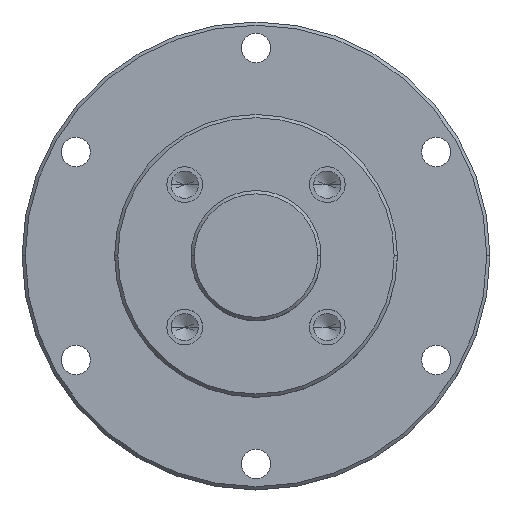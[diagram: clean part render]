
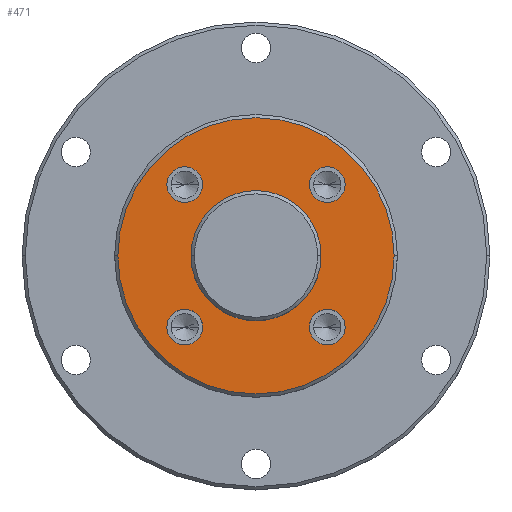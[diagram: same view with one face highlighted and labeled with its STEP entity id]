
A CAD part, top view. The second image highlights one B-rep face of the part: STEP entity #471.
In plain terms, the highlighted planar face has unit normal (0, 0, 1).
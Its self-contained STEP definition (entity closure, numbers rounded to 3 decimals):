
#46 = AXIS2_PLACEMENT_3D ( 'NONE', #4160, #1697, #4526 ) ;
#117 = CARTESIAN_POINT ( 'NONE',  ( -10.96, -10.96, 0. ) ) ;
#132 = AXIS2_PLACEMENT_3D ( 'NONE', #4412, #1991, #4819 ) ;
#208 = CARTESIAN_POINT ( 'NONE',  ( -10.96, -10.96, 0. ) ) ;
#220 = DIRECTION ( 'NONE',  ( 1., 0., 0. ) ) ;
#229 = DIRECTION ( 'NONE',  ( 1., 0., 0. ) ) ;
#358 = CIRCLE ( 'NONE', #2219, 2.75 ) ;
#381 = DIRECTION ( 'NONE',  ( 0., 0., 1. ) ) ;
#435 = CARTESIAN_POINT ( 'NONE',  ( 10., 0., 0. ) ) ;
#470 = ORIENTED_EDGE ( 'NONE', *, *, #5155, .T. ) ;
#471 = ADVANCED_FACE ( 'NONE', ( #5117, #4951, #4954, #4836, #4831, #4761 ), #4804, .F. ) ;
#542 = DIRECTION ( 'NONE',  ( -1., 0., 0. ) ) ;
#609 = VERTEX_POINT ( 'NONE', #1259 ) ;
#614 = DIRECTION ( 'NONE',  ( -1., 0., 0. ) ) ;
#618 = VERTEX_POINT ( 'NONE', #4518 ) ;
#628 = EDGE_LOOP ( 'NONE', ( #5009, #4620 ) ) ;
#711 = ORIENTED_EDGE ( 'NONE', *, *, #1067, .F. ) ;
#761 = EDGE_CURVE ( 'NONE', #609, #618, #4282, .T. ) ;
#896 = VERTEX_POINT ( 'NONE', #3462 ) ;
#906 = VERTEX_POINT ( 'NONE', #4793 ) ;
#1015 = AXIS2_PLACEMENT_3D ( 'NONE', #2913, #381, #3322 ) ;
#1029 = CIRCLE ( 'NONE', #4400, 2.75 ) ;
#1067 = EDGE_CURVE ( 'NONE', #896, #906, #1267, .T. ) ;
#1074 = DIRECTION ( 'NONE',  ( 0., 0., 1. ) ) ;
#1080 = EDGE_LOOP ( 'NONE', ( #3213, #1406 ) ) ;
#1089 = DIRECTION ( 'NONE',  ( 0., 0., 1. ) ) ;
#1100 = CIRCLE ( 'NONE', #3053, 21.25 ) ;
#1111 = CIRCLE ( 'NONE', #4452, 21.25 ) ;
#1204 = CARTESIAN_POINT ( 'NONE',  ( -10.96, 10.96, 0. ) ) ;
#1217 = EDGE_CURVE ( 'NONE', #906, #896, #358, .T. ) ;
#1259 = CARTESIAN_POINT ( 'NONE',  ( -13.71, 10.96, 0. ) ) ;
#1264 = VERTEX_POINT ( 'NONE', #4504 ) ;
#1267 = CIRCLE ( 'NONE', #2043, 2.75 ) ;
#1273 = VERTEX_POINT ( 'NONE', #3548 ) ;
#1286 = VERTEX_POINT ( 'NONE', #435 ) ;
#1389 = ORIENTED_EDGE ( 'NONE', *, *, #3095, .T. ) ;
#1406 = ORIENTED_EDGE ( 'NONE', *, *, #761, .F. ) ;
#1537 = EDGE_CURVE ( 'NONE', #618, #609, #3072, .T. ) ;
#1572 = EDGE_CURVE ( 'NONE', #1264, #1273, #2820, .T. ) ;
#1586 = DIRECTION ( 'NONE',  ( -1., 0., 0. ) ) ;
#1611 = DIRECTION ( 'NONE',  ( 0., 0., 1. ) ) ;
#1645 = DIRECTION ( 'NONE',  ( 1., 0., 0. ) ) ;
#1661 = DIRECTION ( 'NONE',  ( 0., 0., 1. ) ) ;
#1662 = AXIS2_PLACEMENT_3D ( 'NONE', #1204, #4106, #1645 ) ;
#1665 = VERTEX_POINT ( 'NONE', #3638 ) ;
#1674 = VERTEX_POINT ( 'NONE', #2850 ) ;
#1697 = DIRECTION ( 'NONE',  ( 0., 0., 1. ) ) ;
#1802 = EDGE_CURVE ( 'NONE', #1665, #1674, #1029, .T. ) ;
#1991 = DIRECTION ( 'NONE',  ( 0., 0., 1. ) ) ;
#2043 = AXIS2_PLACEMENT_3D ( 'NONE', #117, #3048, #542 ) ;
#2117 = EDGE_CURVE ( 'NONE', #1674, #1665, #2420, .T. ) ;
#2201 = AXIS2_PLACEMENT_3D ( 'NONE', #5093, #2751, #229 ) ;
#2219 = AXIS2_PLACEMENT_3D ( 'NONE', #208, #3136, #614 ) ;
#2225 = EDGE_LOOP ( 'NONE', ( #470, #1389 ) ) ;
#2300 = CARTESIAN_POINT ( 'NONE',  ( -21.25, 0., 0. ) ) ;
#2346 = ORIENTED_EDGE ( 'NONE', *, *, #3312, .F. ) ;
#2420 = CIRCLE ( 'NONE', #1015, 2.75 ) ;
#2518 = AXIS2_PLACEMENT_3D ( 'NONE', #3253, #4048, #1586 ) ;
#2519 = AXIS2_PLACEMENT_3D ( 'NONE', #5084, #2737, #220 ) ;
#2736 = ORIENTED_EDGE ( 'NONE', *, *, #1217, .F. ) ;
#2737 = DIRECTION ( 'NONE',  ( 0., 0., 1. ) ) ;
#2751 = DIRECTION ( 'NONE',  ( 0., 0., 1. ) ) ;
#2806 = ORIENTED_EDGE ( 'NONE', *, *, #2117, .F. ) ;
#2820 = CIRCLE ( 'NONE', #4873, 2.75 ) ;
#2850 = CARTESIAN_POINT ( 'NONE',  ( 13.71, -10.96, 0. ) ) ;
#2856 = EDGE_CURVE ( 'NONE', #3133, #1286, #3966, .T. ) ;
#2913 = CARTESIAN_POINT ( 'NONE',  ( 10.96, -10.96, 0. ) ) ;
#2915 = CARTESIAN_POINT ( 'NONE',  ( 21.25, 0., 0. ) ) ;
#3048 = DIRECTION ( 'NONE',  ( 0., 0., 1. ) ) ;
#3053 = AXIS2_PLACEMENT_3D ( 'NONE', #3588, #1074, #3976 ) ;
#3072 = CIRCLE ( 'NONE', #1662, 2.75 ) ;
#3095 = EDGE_CURVE ( 'NONE', #4603, #3191, #1111, .T. ) ;
#3133 = VERTEX_POINT ( 'NONE', #3324 ) ;
#3136 = DIRECTION ( 'NONE',  ( 0., 0., 1. ) ) ;
#3191 = VERTEX_POINT ( 'NONE', #2300 ) ;
#3213 = ORIENTED_EDGE ( 'NONE', *, *, #1537, .F. ) ;
#3219 = CIRCLE ( 'NONE', #2201, 10. ) ;
#3253 = CARTESIAN_POINT ( 'NONE',  ( 0., 21.75, 0. ) ) ;
#3258 = ORIENTED_EDGE ( 'NONE', *, *, #1802, .F. ) ;
#3312 = EDGE_CURVE ( 'NONE', #1273, #1264, #3429, .T. ) ;
#3322 = DIRECTION ( 'NONE',  ( 1., 0., 0. ) ) ;
#3324 = CARTESIAN_POINT ( 'NONE',  ( -10., 0., 0. ) ) ;
#3429 = CIRCLE ( 'NONE', #132, 2.75 ) ;
#3462 = CARTESIAN_POINT ( 'NONE',  ( -13.71, -10.96, 0. ) ) ;
#3548 = CARTESIAN_POINT ( 'NONE',  ( 13.71, 10.96, 0. ) ) ;
#3588 = CARTESIAN_POINT ( 'NONE',  ( 0., 0., 0. ) ) ;
#3603 = CARTESIAN_POINT ( 'NONE',  ( 10.96, -10.96, 0. ) ) ;
#3638 = CARTESIAN_POINT ( 'NONE',  ( 8.21, -10.96, 0. ) ) ;
#3936 = ORIENTED_EDGE ( 'NONE', *, *, #1572, .F. ) ;
#3966 = CIRCLE ( 'NONE', #2519, 10. ) ;
#3976 = DIRECTION ( 'NONE',  ( -1., 0., 0. ) ) ;
#3987 = DIRECTION ( 'NONE',  ( 1., 0., 0. ) ) ;
#4048 = DIRECTION ( 'NONE',  ( 0., 0., -1. ) ) ;
#4084 = CARTESIAN_POINT ( 'NONE',  ( 0., 0., 0. ) ) ;
#4106 = DIRECTION ( 'NONE',  ( 0., 0., 1. ) ) ;
#4120 = CARTESIAN_POINT ( 'NONE',  ( 10.96, 10.96, 0. ) ) ;
#4160 = CARTESIAN_POINT ( 'NONE',  ( -10.96, 10.96, 0. ) ) ;
#4282 = CIRCLE ( 'NONE', #46, 2.75 ) ;
#4400 = AXIS2_PLACEMENT_3D ( 'NONE', #3603, #1089, #3987 ) ;
#4412 = CARTESIAN_POINT ( 'NONE',  ( 10.96, 10.96, 0. ) ) ;
#4450 = DIRECTION ( 'NONE',  ( -1., 0., 0. ) ) ;
#4452 = AXIS2_PLACEMENT_3D ( 'NONE', #4084, #1611, #4450 ) ;
#4493 = DIRECTION ( 'NONE',  ( -1., 0., 0. ) ) ;
#4504 = CARTESIAN_POINT ( 'NONE',  ( 8.21, 10.96, 0. ) ) ;
#4518 = CARTESIAN_POINT ( 'NONE',  ( -8.21, 10.96, 0. ) ) ;
#4526 = DIRECTION ( 'NONE',  ( 1., 0., 0. ) ) ;
#4581 = EDGE_LOOP ( 'NONE', ( #2736, #711 ) ) ;
#4603 = VERTEX_POINT ( 'NONE', #2915 ) ;
#4620 = ORIENTED_EDGE ( 'NONE', *, *, #2856, .F. ) ;
#4704 = EDGE_LOOP ( 'NONE', ( #2346, #3936 ) ) ;
#4761 = FACE_BOUND ( 'NONE', #5140, .T. ) ;
#4793 = CARTESIAN_POINT ( 'NONE',  ( -8.21, -10.96, 0. ) ) ;
#4804 = PLANE ( 'NONE',  #2518 ) ;
#4819 = DIRECTION ( 'NONE',  ( -1., 0., 0. ) ) ;
#4831 = FACE_BOUND ( 'NONE', #4704, .T. ) ;
#4836 = FACE_BOUND ( 'NONE', #4581, .T. ) ;
#4873 = AXIS2_PLACEMENT_3D ( 'NONE', #4120, #1661, #4493 ) ;
#4951 = FACE_OUTER_BOUND ( 'NONE', #2225, .T. ) ;
#4954 = FACE_BOUND ( 'NONE', #1080, .T. ) ;
#5009 = ORIENTED_EDGE ( 'NONE', *, *, #5108, .F. ) ;
#5084 = CARTESIAN_POINT ( 'NONE',  ( 0., 0., 0. ) ) ;
#5093 = CARTESIAN_POINT ( 'NONE',  ( 0., 0., 0. ) ) ;
#5108 = EDGE_CURVE ( 'NONE', #1286, #3133, #3219, .T. ) ;
#5117 = FACE_BOUND ( 'NONE', #628, .T. ) ;
#5140 = EDGE_LOOP ( 'NONE', ( #2806, #3258 ) ) ;
#5155 = EDGE_CURVE ( 'NONE', #3191, #4603, #1100, .T. ) ;
